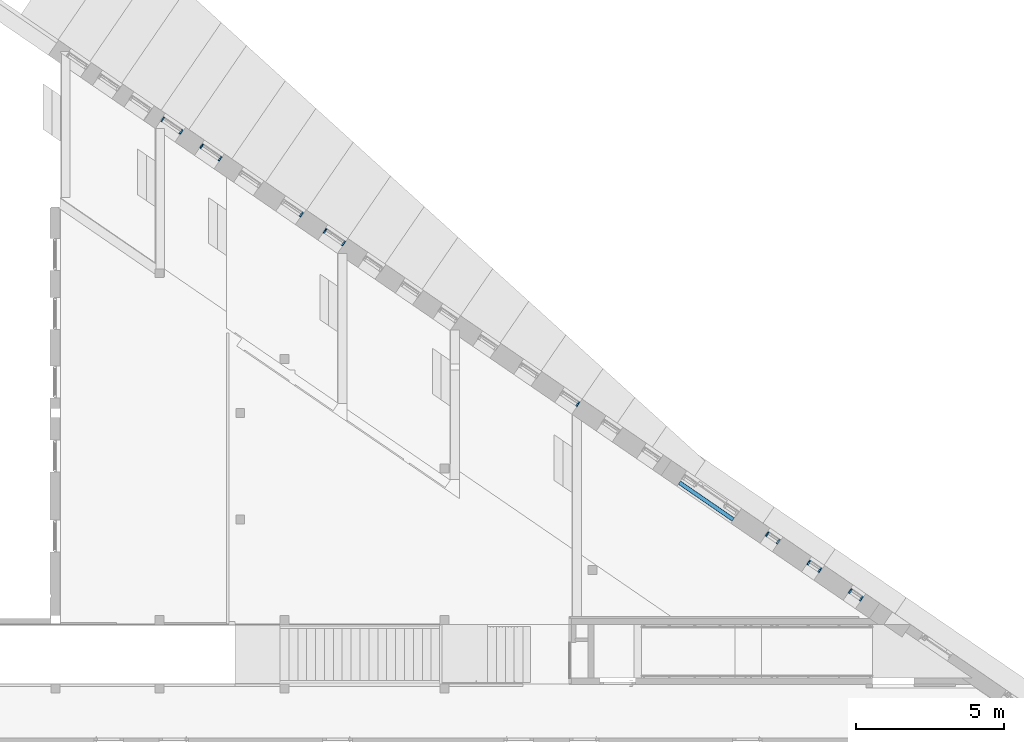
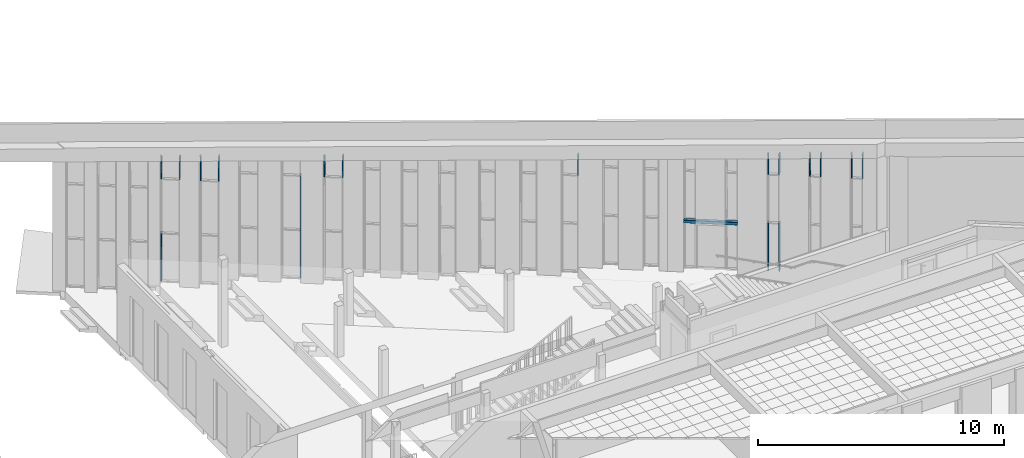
# One storey, part 27 of 79: 18 members, 1 beam, 8 elements without a shape of their own.
"""IFC2X3 building model written with IfcOpenShell, lengths in millimetres."""

from ifc_helpers import new_model, entity, si_unit, converted_unit, derived_unit, money_unit, direction, frame, origin_with_axes, place, context, subcontext, project, spatial, faceted_brep, material, type_object, element, aggregate, save


model = new_model("IFC2X3")

# Units and contexts
model_context = context("Model", 3, precision=0.01, world=origin_with_axes(), true_north=direction((0.0, 1.0)))
body_context = subcontext(model_context, "Body", "Model", "MODEL_VIEW")
ifc_project = project(units=[si_unit("LENGTHUNIT", "METRE", prefix="MILLI"), si_unit("AREAUNIT", "SQUARE_METRE"), si_unit("VOLUMEUNIT", "CUBIC_METRE"), converted_unit("PLANEANGLEUNIT", "DEGREE", entity("IfcPlaneAngleMeasure", 0.0174532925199), si_unit("PLANEANGLEUNIT", "RADIAN"), dimensions=[0, 0, 0, 0, 0, 0, 0]), si_unit("SOLIDANGLEUNIT", "STERADIAN"), money_unit("EUR"), converted_unit("TIMEUNIT", "Year", entity("IfcTimeMeasure", 31556926.0), si_unit("TIMEUNIT", "SECOND"), dimensions=[0, 0, 1, 0, 0, 0, 0]), si_unit("MASSUNIT", "GRAM", prefix="KILO"), si_unit("THERMODYNAMICTEMPERATUREUNIT", "DEGREE_CELSIUS"), si_unit("LUMINOUSINTENSITYUNIT", "LUMEN"), si_unit("ENERGYUNIT", "JOULE", prefix="MEGA"), derived_unit("THERMALCONDUCTANCEUNIT", [(si_unit("POWERUNIT", "WATT"), 1), (si_unit("LENGTHUNIT", "METRE"), -1), (si_unit("THERMODYNAMICTEMPERATUREUNIT", "KELVIN"), -1)]), derived_unit("SPECIFICHEATCAPACITYUNIT", [(si_unit("ENERGYUNIT", "JOULE"), 1), (si_unit("MASSUNIT", "GRAM", prefix="KILO"), -1), (si_unit("THERMODYNAMICTEMPERATUREUNIT", "KELVIN"), -1)]), derived_unit("MASSDENSITYUNIT", [(si_unit("MASSUNIT", "GRAM", prefix="KILO"), 1), (si_unit("VOLUMEUNIT", "CUBIC_METRE"), -1)])], contexts=[model_context])

# Site, building, storey
site_placement = place(None, origin_with_axes())
site = spatial("IfcSite", under=ifc_project, at=site_placement, Name="L.Koidula tn 11b", CompositionType="ELEMENT")
building_placement = place(site_placement, origin_with_axes())
building = spatial("IfcBuilding", under=site, at=building_placement, Name="Rakvere Riigigümnaasium", CompositionType="ELEMENT")
storey_placement = place(building_placement, frame((0.0, 0.0, 3720.0), z_axis=(0.0, 0.0, 1.0), x_axis=(1.0, 0.0, 0.0)))
storey = spatial("IfcBuildingStorey", under=building, at=storey_placement, Name="2.korrus +3,72", CompositionType="ELEMENT", Elevation=3720.0)

# Beam
ifc_material_1 = material(Name="Teras, S355")
beam_type = type_object("IfcBeamType", Name="SHS150x150x6 150 x 150", PredefinedType="BEAM")
beam_placement = place(storey_placement, frame((80889.877763, 20653.4295037, 2915.0), z_axis=(0.0, 0.0, 1.0), x_axis=(0.565619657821, 0.824666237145, 0.0)))
element("IfcBeam", 1, at=beam_placement, inside=storey, type_object=beam_type, material=ifc_material_1, Name="TALA", ObjectType="BEAM", context=body_context, shape_type="Brep", body=[
    faceted_brep([(-64.9726978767, 2199.99519812, 70.0137131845), (65.0273023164, 2199.99519812, 70.0137131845), (68.5628362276, 2199.99519812, 68.5492470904), (70.0273023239, 2199.99519812, 65.0137131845), (70.0273023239, 2199.99519812, -64.9862868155), (68.5628362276, 2199.99519812, -68.5218207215), (65.0273023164, 2199.99519812, -69.9862868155), (-64.9726978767, 2199.99519812, -69.9862868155), (-68.5082317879, 2199.99519812, -68.5218207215), (-69.9726978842, 2199.99519812, -64.9862868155), (-69.9726978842, 2199.99519812, 65.0137131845), (-68.5082317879, 2199.99519812, 68.5492470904), (-69.0, 2199.99519812, -63.0), (-67.2426406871, 2199.99519812, -67.2426406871), (-63.0, 2199.99519812, -69.0), (63.0, 2199.99519812, -69.0), (67.2426406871, 2199.99519812, -67.2426406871), (69.0, 2199.99519812, -63.0), (69.0, 2199.99519812, 63.0), (67.2426406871, 2199.99519812, 67.2426406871), (63.0, 2199.99519812, 69.0), (-63.0, 2199.99519812, 69.0), (-67.2426406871, 2199.99519812, 67.2426406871), (-69.0, 2199.99519812, 63.0), (64.9073764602, 0.0453962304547, 70.0137131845), (-65.0926233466, 0.0524829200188, 70.0137131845), (68.4429103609, 0.0452034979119, 68.5492470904), (69.9073764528, 0.0451236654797, 65.0137131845), (69.9073764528, 0.0451236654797, -64.9862868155), (68.4429103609, 0.0452034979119, -68.5218207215), (64.9073764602, 0.0453962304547, -69.9862868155), (-65.0926233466, 0.0524829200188, -69.9862868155), (-68.6281572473, 0.0526756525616, -68.5218207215), (-70.0926233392, 0.052755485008, -64.9862868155), (-70.0926233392, 0.052755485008, 65.0137131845), (-68.6281572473, 0.0526756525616, 68.5492470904), (-69.0, 0.0, -63.0), (-67.2426406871, 0.0, -67.2426406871), (-63.0, 0.0, -69.0), (63.0, 0.0, -69.0), (67.2426406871, 0.0, -67.2426406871), (69.0, 0.0, -63.0), (69.0, 0.0, 63.0), (67.2426406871, 0.0, 67.2426406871), (63.0, 0.0, 69.0), (-63.0, 0.0, 69.0), (-67.2426406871, 0.0, 67.2426406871), (-69.0, 0.0, 63.0), (63.0, 0.0455002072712, 75.0), (71.4852813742, 0.0450376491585, 71.4852813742), (74.9073764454, 0.0448511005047, 63.2236130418), (74.9073764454, 0.0448511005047, -63.2236130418), (71.4852813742, 0.0450376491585, -71.4852813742), (63.0331065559, 0.0454984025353, -74.9862868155), (-63.0331065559, 0.0523706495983, -74.9862868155), (-71.4852813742, 0.0528314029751, -71.4852813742), (-75.0, 0.0530230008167, -63.0), (-75.0, 0.0530230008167, 63.0), (-71.4852813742, 0.0528314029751, 71.4852813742), (-63.0, 0.0523688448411, 75.0), (-75.0, 0.0, -63.0), (-71.4852813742, 0.0, -71.4852813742), (-63.0, 0.0, -75.0), (63.0, 0.0, -75.0), (71.4852813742, 0.0, -71.4852813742), (75.0, 0.0, -63.0), (75.0, 0.0, 63.0), (71.4852813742, 0.0, 71.4852813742), (63.0, 0.0, 75.0), (-63.0, 0.0, 75.0), (-71.4852813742, 0.0, 71.4852813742), (-75.0, 0.0, 63.0), (75.0, 1699.15442684, 63.0), (75.0, 1699.15442683, -63.0), (63.0331065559, 2199.99519812, -74.9862868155), (63.0, 2199.99519812, -75.0), (-63.0331065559, 2199.99519812, -74.9862868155), (-63.0, 2199.99519812, -75.0)], [[[0, 1, 2, 3, 4, 5, 6, 7, 8, 9, 10, 11], [12, 13, 14, 15, 16, 17, 18, 19, 20, 21, 22, 23]], [[24, 1, 0, 25]], [[26, 2, 1, 24]], [[27, 3, 2, 26]], [[28, 4, 3, 27]], [[29, 5, 4, 28]], [[30, 6, 5, 29]], [[31, 7, 6, 30]], [[32, 8, 7, 31]], [[33, 9, 8, 32]], [[34, 10, 9, 33]], [[35, 11, 10, 34]], [[25, 0, 11, 35]], [[36, 37, 13, 12]], [[37, 38, 14, 13]], [[38, 39, 15, 14]], [[39, 40, 16, 15]], [[40, 41, 17, 16]], [[41, 42, 18, 17]], [[42, 43, 19, 18]], [[43, 44, 20, 19]], [[44, 45, 21, 20]], [[45, 46, 22, 21]], [[46, 47, 23, 22]], [[47, 36, 12, 23]], [[48, 49, 50, 51, 52, 53, 54, 55, 56, 57, 58, 59], [24, 25, 35, 34, 33, 32, 31, 30, 29, 28, 27, 26]], [[60, 61, 62, 63, 64, 65, 66, 67, 68, 69, 70, 71], [40, 39, 38, 37, 36, 47, 46, 45, 44, 43, 42, 41]], [[67, 49, 48, 68]], [[72, 50, 49, 67, 66]], [[51, 50, 72, 73]], [[52, 51, 73, 65, 64]], [[74, 53, 52, 64, 63, 75]], [[54, 53, 74, 76]], [[55, 54, 76, 77, 62, 61]], [[60, 56, 55, 61]], [[71, 57, 56, 60]], [[70, 58, 57, 71]], [[69, 59, 58, 70]], [[68, 48, 59, 69]], [[63, 62, 77, 75]], [[65, 73, 72, 66]], [[77, 76, 74, 75]]]),
    faceted_brep([(-75.0, 2199.99519812, -63.0), (-75.0, 1699.15851523, -63.0), (-75.0, 1699.15851517, 63.0), (-75.0, 2199.99519812, 63.0), (-74.9726978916, 2199.99519812, -63.0659131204), (-74.9726978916, 2199.99519812, 63.0659131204)], [[[0, 1, 2, 3]], [[0, 4, 1]], [[4, 5, 2, 1]], [[3, 2, 5]], [[3, 5, 4, 0]]]),
])

# Curtain wall, members
curtain_wall_type = type_object("IfcCurtainWallType", Name="Curtain Wall Type", PredefinedType="NOTDEFINED")
curtain_wall_1_placement = place(storey_placement, frame((61972.2494244, 33972.9766299, -1395.00007094), z_axis=(0.0, 0.0, 1.0), x_axis=(1.0, 0.0, 0.0)))
curtain_wall_1 = element("IfcCurtainWall", 2, at=curtain_wall_1_placement, inside=storey, type_object=curtain_wall_type, Name="KLF-06-18")
ifc_material_2 = material(Name="Alumiiniumprofiil (RAL 7021)")
member_type = type_object("IfcMemberType", Name="Boundary Frame 50 x 170", PredefinedType="MULLION")
member_1_placement = place(curtain_wall_1_placement, frame((-329.768893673, 226.180920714, 2400.00015279), z_axis=(2.74304762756e-05, -1.88139345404e-05, -0.999999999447), x_axis=(0.824666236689, -0.565619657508, 3.32625188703e-05)))
member_1 = element("IfcMember", 3, at=member_1_placement, type_object=member_type, material=ifc_material_2, Name="KLF-06-26-Profiilid", ObjectType="MULLION", context=body_context, shape_type="Brep", body=[
    faceted_brep([(37.0, 26.0, 2363.00138482), (50.0, 26.0, 2350.00181722), (50.0, 124.0, 2350.00181722), (0.0, 124.0, 2400.00015412), (0.0, -46.0, 2400.00015412), (50.0, -46.0, 2350.00181722), (50.0, -26.0, 2350.00181722), (37.0, -26.0, 2363.00138482), (37.0, 26.0, -5.21684206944e-05), (50.0, 26.0, -5.21684189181e-05), (50.0, 124.0, -5.21684198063e-05), (0.0, 124.0, -5.21684189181e-05), (0.0, -46.0, -5.21684198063e-05), (50.0, -46.0, -5.21684189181e-05), (50.0, -26.0, -5.21684189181e-05), (37.0, -26.0, -5.21684206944e-05)], [[[0, 1, 2, 3, 4, 5, 6, 7]], [[0, 8, 9, 1]], [[9, 10, 2, 1]], [[10, 11, 3, 2]], [[11, 12, 4, 3]], [[12, 13, 5, 4]], [[6, 5, 13, 14]], [[14, 15, 7, 6]], [[7, 15, 8, 0]], [[8, 15, 14, 13, 12, 11, 10, 9]]]),
])
member_2_placement = place(curtain_wall_1_placement, frame((-329.872762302, 226.252161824, 6188.44037357), z_axis=(2.31156630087e-05, -1.58545030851e-05, -0.999999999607), x_axis=(0.824666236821, -0.565619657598, 2.80303254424e-05)))
member_2 = element("IfcMember", 4, at=member_2_placement, type_object=member_type, material=ifc_material_2, Name="KLF-06-32-Profiilid", ObjectType="MULLION", context=body_context, shape_type="Brep", body=[
    faceted_brep([(37.0, 26.0, 1088.44040418), (50.0, 26.0, 1088.44040418), (50.0, 124.0, 1088.44040418), (0.0, 124.0, 1088.44040418), (0.0, -46.0, 1088.44040418), (50.0, -46.0, 1088.44040418), (50.0, -26.0, 1088.44040418), (37.0, -26.0, 1088.44040418), (37.0, 26.0, 34.9701853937), (50.0, 26.0, 47.2570072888), (50.0, 124.0, 47.2570072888), (0.0, 124.0, 0.0), (0.0, -46.0, 0.0), (50.0, -46.0, 47.2570072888), (50.0, -26.0, 47.2570072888), (37.0, -26.0, 34.9701853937)], [[[0, 1, 2, 3, 4, 5, 6, 7]], [[0, 8, 9, 1]], [[9, 10, 2, 1]], [[2, 10, 11, 3]], [[3, 11, 12, 4]], [[4, 12, 13, 5]], [[6, 5, 13, 14]], [[14, 15, 7, 6]], [[7, 15, 8, 0]], [[8, 15, 14, 13, 12, 11, 10, 9]]]),
])
member_3_placement = place(curtain_wall_1_placement, frame((329.860176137, -226.243529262, 5100.00015279), z_axis=(1.08619822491e-08, -7.44998985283e-09, 1.0), x_axis=(-0.824666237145, 0.565619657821, 1.31713707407e-08)))
member_3 = element("IfcMember", 5, at=member_3_placement, type_object=member_type, material=ifc_material_2, Name="KLF-06-30-Profiilid", ObjectType="MULLION", context=body_context, shape_type="Brep", body=[
    faceted_brep([(37.0000144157, 26.0, 1094.47558108), (50.0000142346, 26.0, 1080.72062065), (50.0000142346, 124.0, 1080.72062065), (1.49313805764e-05, 124.0, 1133.62431464), (1.49313805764e-05, -46.0, 1133.62431464), (50.0000142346, -46.0, 1080.72062065), (50.0000142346, -26.0, 1080.72062065), (37.0000144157, -26.0, 1094.47558108), (37.0, 26.0, -1.40410882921e-06), (50.0, 26.0, -1.57533630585e-06), (50.0, 124.0, -1.57533630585e-06), (0.0, 124.0, -9.16767106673e-07), (0.0, -46.0, -9.16767994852e-07), (50.0, -46.0, -1.57533719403e-06), (50.0, -26.0, -1.57533630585e-06), (37.0, -26.0, -1.40410882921e-06)], [[[0, 1, 2, 3, 4, 5, 6, 7]], [[0, 8, 9, 1]], [[9, 10, 2, 1]], [[10, 11, 3, 2]], [[11, 12, 4, 3]], [[12, 13, 5, 4]], [[6, 5, 13, 14]], [[14, 15, 7, 6]], [[7, 15, 8, 0]], [[8, 15, 14, 13, 12, 11, 10, 9]]]),
])
aggregate(curtain_wall_1, [member_1, member_2, member_3])

curtain_wall_2_placement = place(storey_placement, frame((63291.7064528, 33067.985779, -1395.00012232), z_axis=(0.0, 0.0, 1.0), x_axis=(1.0, 0.0, 0.0)))
curtain_wall_2 = element("IfcCurtainWall", 6, at=curtain_wall_2_placement, inside=storey, type_object=curtain_wall_type, Name="KLF-06-17")
member_4_placement = place(curtain_wall_2_placement, frame((-329.866487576, 226.247858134, 6283.53890701), z_axis=(2.82236716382e-08, -1.93579732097e-08, -1.0), x_axis=(0.824666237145, -0.565619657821, 3.42243592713e-08)))
member_4 = element("IfcMember", 7, at=member_4_placement, type_object=member_type, material=ifc_material_2, Name="KLF-06-39-Profiilid", ObjectType="MULLION", context=body_context, shape_type="Brep", body=[
    faceted_brep([(36.9999594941, 26.0, 1183.53870495), (49.9999594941, 26.0, 1183.5387054), (49.9999594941, 124.0, 1183.5387054), (-4.05058528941e-05, 124.0, 1183.53870369), (-4.05058457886e-05, -46.0, 1183.53870369), (49.9999594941, -46.0, 1183.5387054), (49.9999594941, -26.0, 1183.5387054), (36.9999594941, -26.0, 1183.53870495), (36.9999988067, 26.0, 34.8661522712), (49.9999983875, 26.0, 47.1164219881), (49.9999983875, 124.0, 47.1164219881), (0.0, 124.0, 0.0), (0.0, -46.0, 0.0), (49.9999983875, -46.0, 47.1164219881), (49.9999983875, -26.0, 47.1164219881), (36.9999988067, -26.0, 34.8661522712)], [[[0, 1, 2, 3, 4, 5, 6, 7]], [[0, 8, 9, 1]], [[9, 10, 2, 1]], [[2, 10, 11, 3]], [[3, 11, 12, 4]], [[4, 12, 13, 5]], [[6, 5, 13, 14]], [[14, 15, 7, 6]], [[7, 15, 8, 0]], [[8, 15, 14, 13, 12, 11, 10, 9]]]),
])
member_5_placement = place(curtain_wall_2_placement, frame((329.866474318, -226.24784904, 5100.00020418), z_axis=(-5.59538744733e-09, 3.83774787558e-09, 1.0), x_axis=(-0.824666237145, 0.565619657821, -6.78503275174e-09)))
member_5 = element("IfcMember", 8, at=member_5_placement, type_object=member_type, material=ifc_material_2, Name="KLF-06-37-Profiilid", ObjectType="MULLION", context=body_context, shape_type="Brep", body=[
    faceted_brep([(36.9999919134, 26.0, 1191.82338698), (49.999992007, 26.0, 1178.02777157), (49.999992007, 124.0, 1178.02777157), (-8.35296987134e-06, 124.0, 1231.08783084), (-8.35297697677e-06, -46.0, 1231.08783084), (49.999992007, -46.0, 1178.02777157), (49.999992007, -26.0, 1178.02777157), (36.9999919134, -26.0, 1191.82338698), (37.0, 26.0, -9.6141672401e-07), (50.0, 26.0, -8.7321172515e-07), (50.0, 124.0, -8.7321172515e-07), (0.0, 124.0, -1.21246301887e-06), (0.0, -46.0, -1.21246301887e-06), (50.0, -46.0, -8.7321172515e-07), (50.0, -26.0, -8.7321172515e-07), (37.0, -26.0, -9.6141672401e-07)], [[[0, 1, 2, 3, 4, 5, 6, 7]], [[0, 8, 9, 1]], [[9, 10, 2, 1]], [[10, 11, 3, 2]], [[11, 12, 4, 3]], [[12, 13, 5, 4]], [[6, 5, 13, 14]], [[14, 15, 7, 6]], [[7, 15, 8, 0]], [[8, 15, 14, 13, 12, 11, 10, 9]]]),
])
aggregate(curtain_wall_2, [member_4, member_5])

curtain_wall_3_placement = place(storey_placement, frame((66033.4417184, 31187.4994723, -930.00009489), z_axis=(0.0, 0.0, 1.0), x_axis=(1.0, 0.0, 0.0)))
curtain_wall_3 = element("IfcCurtainWall", 9, at=curtain_wall_3_placement, inside=storey, type_object=curtain_wall_type, Name="KLF-06-15")
member_6_placement = place(curtain_wall_3_placement, frame((329.795106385, -226.198899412, 2400.00018486), z_axis=(-0.000156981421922, 0.00010766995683, 0.999999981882), x_axis=(-0.824666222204, 0.565619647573, -0.000190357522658)))
member_6 = element("IfcMember", 10, at=member_6_placement, type_object=member_type, material=ifc_material_2, Name="KLF-06-33-Profiilid", ObjectType="MULLION", context=body_context, shape_type="Brep", body=[
    faceted_brep([(37.0, 26.0, 2700.00032986), (50.0, 26.0, 2700.00032986), (50.0, 124.0, 2700.00032986), (0.0, 124.0, 2700.00032986), (0.0, -46.0, 2700.00032986), (50.0, -46.0, 2700.00032986), (50.0, -26.0, 2700.00032986), (37.0, -26.0, 2700.00032986), (37.0, 26.0, -0.000281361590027), (50.0, 26.0, -0.000281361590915), (50.0, 124.0, -0.000281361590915), (0.0, 124.0, -0.000281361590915), (0.0, -46.0, -0.000281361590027), (50.0, -46.0, -0.000281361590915), (50.0, -26.0, -0.000281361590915), (37.0, -26.0, -0.000281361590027)], [[[0, 1, 2, 3, 4, 5, 6, 7]], [[0, 8, 9, 1]], [[9, 10, 2, 1]], [[10, 11, 3, 2]], [[11, 12, 4, 3]], [[12, 13, 5, 4]], [[6, 5, 13, 14]], [[14, 15, 7, 6]], [[7, 15, 8, 0]], [[8, 15, 14, 13, 12, 11, 10, 9]]]),
])
member_7_placement = place(curtain_wall_3_placement, frame((330.149587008, -226.442029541, 0.0), z_axis=(-0.000147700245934, 0.000101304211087, 0.999999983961), x_axis=(-0.824666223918, 0.565619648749, -0.00017910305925)))
member_7 = element("IfcMember", 11, at=member_7_placement, type_object=member_type, material=ifc_material_2, Name="KLF-06-32-Profiilid", ObjectType="MULLION", context=body_context, shape_type="Brep", body=[
    faceted_brep([(37.0, 26.0, 2400.00050471), (50.0, 26.0, 2400.00050471), (50.0, 124.0, 2400.00050471), (0.0, 124.0, 2400.00050471), (0.0, -46.0, 2400.00050471), (50.0, -46.0, 2400.00050471), (50.0, -26.0, 2400.00050471), (37.0, -26.0, 2400.00050471), (37.0, 26.0, 37.0066274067), (50.0, 26.0, 50.0089559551), (50.0, 124.0, 50.0089559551), (0.0, 124.0, 0.0), (0.0, -46.0, 0.0), (50.0, -46.0, 50.0089559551), (50.0, -26.0, 50.0089559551), (37.0, -26.0, 37.0066274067)], [[[0, 1, 2, 3, 4, 5, 6, 7]], [[0, 8, 9, 1]], [[9, 10, 2, 1]], [[2, 10, 11, 3]], [[3, 11, 12, 4]], [[4, 12, 13, 5]], [[6, 5, 13, 14]], [[14, 15, 7, 6]], [[7, 15, 8, 0]], [[8, 15, 14, 13, 12, 11, 10, 9]]]),
])
aggregate(curtain_wall_3, [member_6, member_7])

curtain_wall_4_placement = place(storey_placement, frame((67456.273164, 30211.6096842, -929.999974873), z_axis=(0.0, 0.0, 1.0), x_axis=(1.0, 0.0, 0.0)))
curtain_wall_4 = element("IfcCurtainWall", 12, at=curtain_wall_4_placement, inside=storey, type_object=curtain_wall_type, Name="KLF-06-14")
member_8_placement = place(curtain_wall_4_placement, frame((329.866459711, -226.247839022, 5100.00006484), z_axis=(1.34766396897e-08, -9.24332023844e-09, 1.0), x_axis=(-0.824666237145, 0.565619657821, 1.63419333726e-08)))
member_8 = element("IfcMember", 13, at=member_8_placement, type_object=member_type, material=ifc_material_2, Name="KLF-06-43-Profiilid", ObjectType="MULLION", context=body_context, shape_type="Brep", body=[
    faceted_brep([(37.0000167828, 26.0, 1026.97779585), (50.0000165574, 26.0, 1013.18217777), (50.0000165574, 124.0, 1013.18217777), (1.74244618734e-05, 124.0, 1066.24224729), (1.74244618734e-05, -46.0, 1066.24224729), (50.0000165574, -46.0, 1013.18217777), (50.0000165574, -26.0, 1013.18217777), (37.0000167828, -26.0, 1026.97779585), (37.0, 26.0, -1.33730448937e-06), (50.0, 26.0, -1.54974966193e-06), (50.0, 124.0, -1.54974966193e-06), (0.0, 124.0, -7.3265304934e-07), (0.0, -46.0, -7.3265304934e-07), (50.0, -46.0, -1.54974966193e-06), (50.0, -26.0, -1.54974966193e-06), (37.0, -26.0, -1.33730537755e-06)], [[[0, 1, 2, 3, 4, 5, 6, 7]], [[0, 8, 9, 1]], [[9, 10, 2, 1]], [[10, 11, 3, 2]], [[11, 12, 4, 3]], [[12, 13, 5, 4]], [[6, 5, 13, 14]], [[14, 15, 7, 6]], [[7, 15, 8, 0]], [[8, 15, 14, 13, 12, 11, 10, 9]]]),
])
member_9_placement = place(curtain_wall_4_placement, frame((-329.866469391, 226.247845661, 6118.69306619), z_axis=(4.90027451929e-09, -3.3609802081e-09, -1.0), x_axis=(0.824666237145, -0.565619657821, 5.94212742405e-09)))
member_9 = element("IfcMember", 14, at=member_9_placement, type_object=member_type, material=ifc_material_2, Name="KLF-06-45-Profiilid", ObjectType="MULLION", context=body_context, shape_type="Brep", body=[
    faceted_brep([(36.9999939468, 26.0, 1018.69300172), (49.9999939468, 26.0, 1018.6930018), (49.9999939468, 124.0, 1018.6930018), (-6.0532059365e-06, 124.0, 1018.6930015), (-6.0532059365e-06, -46.0, 1018.6930015), (49.9999939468, -46.0, 1018.6930018), (49.9999939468, -26.0, 1018.6930018), (36.9999939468, -26.0, 1018.69300172), (36.9999997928, 26.0, 34.86614507), (49.99999972, 26.0, 47.1164122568), (49.99999972, 124.0, 47.1164122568), (0.0, 124.0, 0.0), (0.0, -46.0, 0.0), (49.99999972, -46.0, 47.1164122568), (49.99999972, -26.0, 47.1164122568), (36.9999997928, -26.0, 34.86614507)], [[[0, 1, 2, 3, 4, 5, 6, 7]], [[0, 8, 9, 1]], [[9, 10, 2, 1]], [[2, 10, 11, 3]], [[3, 11, 12, 4]], [[4, 12, 13, 5]], [[6, 5, 13, 14]], [[14, 15, 7, 6]], [[7, 15, 8, 0]], [[8, 15, 14, 13, 12, 11, 10, 9]]]),
])
aggregate(curtain_wall_4, [member_8, member_9])

# Curtain wall, member
curtain_wall_5_placement = place(storey_placement, frame((75401.9316286, 24761.8632578, 0.0), z_axis=(0.0, 0.0, 1.0), x_axis=(1.0, 0.0, 0.0)))
curtain_wall_5 = element("IfcCurtainWall", 15, at=curtain_wall_5_placement, inside=storey, type_object=curtain_wall_type, Name="KLF-06-08")
member_10_placement = place(curtain_wall_5_placement, frame((288.633182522, -197.966879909, 4800.00006484), z_axis=(-9.36961109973e-08, 6.42640149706e-08, 1.0), x_axis=(-0.824666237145, 0.565619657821, -1.13617009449e-07)))
member_10 = element("IfcMember", 16, at=member_10_placement, type_object=member_type, material=ifc_material_2, Name="KLF-06-19-Profiilid", ObjectType="MULLION", context=body_context, shape_type="Brep", body=[
    faceted_brep([(36.9998901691, 26.0, 966.676659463), (49.9998917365, 26.0, 952.881044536), (49.9998917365, 124.0, 952.881044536), (-0.000114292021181, 124.0, 1005.94110195), (-0.000114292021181, -46.0, 1005.94110195), (49.9998917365, -46.0, 952.881044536), (49.9998917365, -26.0, 952.881044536), (36.9998901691, -26.0, 966.676659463), (37.0, 26.0, 3.94965837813e-07), (50.0, 26.0, 1.87198700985e-06), (50.0, 124.0, 1.87198700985e-06), (0.0, 124.0, -3.80886255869e-06), (0.0, -46.0, -3.80886255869e-06), (50.0, -46.0, 1.87198700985e-06), (50.0, -26.0, 1.87198700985e-06), (37.0, -26.0, 3.94965837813e-07)], [[[0, 1, 2, 3, 4, 5, 6, 7]], [[0, 8, 9, 1]], [[9, 10, 2, 1]], [[10, 11, 3, 2]], [[11, 12, 4, 3]], [[12, 13, 5, 4]], [[6, 5, 13, 14]], [[14, 15, 7, 6]], [[7, 15, 8, 0]], [[8, 15, 14, 13, 12, 11, 10, 9]]]),
])
aggregate(curtain_wall_5, [member_10])

# Curtain wall, members
curtain_wall_6_placement = place(storey_placement, frame((82246.2623366, 20067.4976964, 464.999982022), z_axis=(0.0, 0.0, 1.0), x_axis=(1.0, 0.0, 0.0)))
curtain_wall_6 = element("IfcCurtainWall", 17, at=curtain_wall_6_placement, inside=storey, type_object=curtain_wall_type, Name="KLF-06-03")
member_11_placement = place(curtain_wall_6_placement, frame((206.170617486, -141.407697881, 4800.00008282), z_axis=(1.26490069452e-05, -8.67566374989e-06, 0.999999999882), x_axis=(-0.824666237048, 0.565619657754, 1.53383349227e-05)))
member_11 = element("IfcMember", 18, at=member_11_placement, type_object=member_type, material=ifc_material_2, Name="KLF-06-14-Profiilid", ObjectType="MULLION", context=body_context, shape_type="Brep", body=[
    faceted_brep([(37.0, 26.0, 989.027681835), (50.0, 26.0, 975.231854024), (50.0, 124.0, 975.231854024), (0.0, 124.0, 1028.29273022), (0.0, -46.0, 1028.29273022), (50.0, -46.0, 975.231854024), (50.0, -26.0, 975.231854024), (37.0, -26.0, 989.027681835), (37.0, 26.0, -2.16019913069e-06), (50.0, 26.0, -2.16019913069e-06), (50.0, 124.0, -2.16019913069e-06), (0.0, 124.0, -2.16019913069e-06), (0.0, -46.0, -2.16019913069e-06), (50.0, -46.0, -2.16019913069e-06), (50.0, -26.0, -2.16019913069e-06), (37.0, -26.0, -2.16019913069e-06)], [[[0, 1, 2, 3, 4, 5, 6, 7]], [[0, 8, 9, 1]], [[9, 10, 2, 1]], [[10, 11, 3, 2]], [[11, 12, 4, 3]], [[12, 13, 5, 4]], [[6, 5, 13, 14]], [[14, 15, 7, 6]], [[7, 15, 8, 0]], [[8, 15, 14, 13, 12, 11, 10, 9]]]),
])
member_12_placement = place(curtain_wall_6_placement, frame((206.109629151, -141.365867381, 0.0), z_axis=(1.26915411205e-05, -8.70483696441e-06, 0.999999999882), x_axis=(-0.824666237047, 0.565619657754, 1.53899123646e-05)))
member_12 = element("IfcMember", 19, at=member_12_placement, type_object=member_type, material=ifc_material_2, Name="KLF-06-12-Profiilid", ObjectType="MULLION", context=body_context, shape_type="Brep", body=[
    faceted_brep([(37.0, 26.0, 2400.00008397), (50.0, 26.0, 2400.00008397), (50.0, 124.0, 2400.00008397), (0.0, 124.0, 2400.00008397), (0.0, -46.0, 2400.00008397), (50.0, -46.0, 2400.00008397), (50.0, -26.0, 2400.00008397), (37.0, -26.0, 2400.00008397), (37.0, 26.0, 36.9994305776), (50.0, 26.0, 49.9992305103), (50.0, 124.0, 49.9992305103), (0.0, 124.0, 0.0), (0.0, -46.0, 0.0), (50.0, -46.0, 49.9992305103), (50.0, -26.0, 49.9992305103), (37.0, -26.0, 36.9994305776)], [[[0, 1, 2, 3, 4, 5, 6, 7]], [[0, 8, 9, 1]], [[9, 10, 2, 1]], [[2, 10, 11, 3]], [[3, 11, 12, 4]], [[4, 12, 13, 5]], [[6, 5, 13, 14]], [[14, 15, 7, 6]], [[7, 15, 8, 0]], [[8, 15, 14, 13, 12, 11, 10, 9]]]),
])
member_13_placement = place(curtain_wall_6_placement, frame((-206.158611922, 141.39946354, 2400.00008282), z_axis=(-2.68579333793e-06, 1.84212405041e-06, -0.999999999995), x_axis=(0.824666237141, -0.565619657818, -3.2568246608e-06)))
member_13 = element("IfcMember", 20, at=member_13_placement, type_object=member_type, material=ifc_material_2, Name="KLF-06-18-Profiilid", ObjectType="MULLION", context=body_context, shape_type="Brep", body=[
    faceted_brep([(37.0076958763, 26.0, 2362.99984181), (50.0076535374, 26.0, 2349.99975713), (50.0076535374, 124.0, 2349.99975713), (0.00781637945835, 124.0, 2400.00008282), (0.00781637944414, -46.0, 2400.00008282), (50.0076535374, -46.0, 2349.99975713), (50.0076535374, -26.0, 2349.99975713), (37.0076958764, -26.0, 2362.99984181), (36.9999999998, 26.0, -0.000121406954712), (49.9999999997, 26.0, -0.000163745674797), (49.9999999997, 124.0, -0.000163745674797), (0.0, 124.0, -9.04441854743e-07), (0.0, -46.0, -9.04441854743e-07), (49.9999999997, -46.0, -0.000163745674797), (49.9999999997, -26.0, -0.000163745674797), (36.9999999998, -26.0, -0.000121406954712)], [[[0, 1, 2, 3, 4, 5, 6, 7]], [[0, 8, 9, 1]], [[9, 10, 2, 1]], [[10, 11, 3, 2]], [[11, 12, 4, 3]], [[12, 13, 5, 4]], [[6, 5, 13, 14]], [[14, 15, 7, 6]], [[7, 15, 8, 0]], [[8, 15, 14, 13, 12, 11, 10, 9]]]),
])
member_14_placement = place(curtain_wall_6_placement, frame((-206.149423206, 141.39316121, 5798.57460276), z_axis=(-2.67502250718e-06, 1.83473658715e-06, -0.999999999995), x_axis=(0.824666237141, -0.565619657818, -3.24376382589e-06)))
member_14 = element("IfcMember", 21, at=member_14_placement, type_object=member_type, material=ifc_material_2, Name="KLF-06-16-Profiilid", ObjectType="MULLION", context=body_context, shape_type="Brep", body=[
    faceted_brep([(37.0032391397, 26.0, 998.574401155), (50.0032391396, 26.0, 998.574358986), (50.0032391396, 124.0, 998.574358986), (0.00323913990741, 124.0, 998.574521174), (0.00323913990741, -46.0, 998.574521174), (50.0032391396, -46.0, 998.574358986), (50.0032391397, -26.0, 998.574358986), (37.0032391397, -26.0, 998.574401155), (37.000113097, 26.0, 34.8659158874), (50.0001528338, 26.0, 47.1161025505), (50.0001528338, 124.0, 47.1161025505), (0.0, 124.0, 0.0), (0.0, -46.0, 0.0), (50.0001528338, -46.0, 47.1161025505), (50.0001528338, -26.0, 47.1161025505), (37.000113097, -26.0, 34.8659158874)], [[[0, 1, 2, 3, 4, 5, 6, 7]], [[0, 8, 9, 1]], [[9, 10, 2, 1]], [[2, 10, 11, 3]], [[3, 11, 12, 4]], [[4, 12, 13, 5]], [[6, 5, 13, 14]], [[14, 15, 7, 6]], [[7, 15, 8, 0]], [[8, 15, 14, 13, 12, 11, 10, 9]]]),
])
aggregate(curtain_wall_6, [member_11, member_12, member_13, member_14])

curtain_wall_7_placement = place(storey_placement, frame((83648.21223, 19105.9329046, 464.999957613), z_axis=(0.0, 0.0, 1.0), x_axis=(1.0, 0.0, 0.0)))
curtain_wall_7 = element("IfcCurtainWall", 22, at=curtain_wall_7_placement, inside=storey, type_object=curtain_wall_type, Name="KLF-06-02")
member_15_placement = place(curtain_wall_7_placement, frame((-206.166491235, 141.40486778, 4800.00010722), z_axis=(0.0, 0.0, 1.0), x_axis=(-0.824666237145, 0.565619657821, 0.0)))
member_15 = element("IfcMember", 23, at=member_15_placement, type_object=member_type, material=ifc_material_2, Name="KLF-06-09-Profiilid", ObjectType="MULLION", context=body_context, shape_type="Brep", body=[
    faceted_brep([(-37.0, 26.0, 1064.75039392), (-37.0, -26.0, 1064.75039392), (-50.0, -26.0, 1052.50012528), (-50.0, -46.0, 1052.50012528), (0.0, -46.0, 1099.61654312), (0.0, 124.0, 1099.61654312), (-50.0, 124.0, 1052.50012528), (-50.0, 26.0, 1052.50012528), (-37.0, 26.0, 0.0), (-37.0, -26.0, 0.0), (-50.0, -26.0, 0.0), (-50.0, -46.0, 0.0), (0.0, -46.0, 0.0), (0.0, 124.0, 0.0), (-50.0, 124.0, 0.0), (-50.0, 26.0, 0.0)], [[[0, 1, 2, 3, 4, 5, 6, 7]], [[1, 0, 8, 9]], [[10, 2, 1, 9]], [[2, 10, 11, 3]], [[12, 4, 3, 11]], [[13, 5, 4, 12]], [[14, 6, 5, 13]], [[15, 7, 6, 14]], [[0, 7, 15, 8]], [[8, 15, 14, 13, 12, 11, 10, 9]]]),
])
member_16_placement = place(curtain_wall_7_placement, frame((206.166557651, -141.404913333, 4800.00010722), z_axis=(0.0, 0.0, 1.0), x_axis=(-0.824666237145, 0.565619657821, 0.0)))
member_16 = element("IfcMember", 24, at=member_16_placement, type_object=member_type, material=ifc_material_2, Name="KLF-06-07-Profiilid", ObjectType="MULLION", context=body_context, shape_type="Brep", body=[
    faceted_brep([(37.0, 26.0, 1090.07030831), (50.0, 26.0, 1076.27469247), (50.0, 124.0, 1076.27469247), (0.0, 124.0, 1129.33475337), (0.0, -46.0, 1129.33475337), (50.0, -46.0, 1076.27469247), (50.0, -26.0, 1076.27469247), (37.0, -26.0, 1090.07030831), (37.0, 26.0, -1.67784541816e-06), (50.0, 26.0, -1.67784541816e-06), (50.0, 124.0, -1.67784541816e-06), (0.0, 124.0, -1.67784541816e-06), (0.0, -46.0, -1.67784541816e-06), (50.0, -46.0, -1.67784541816e-06), (50.0, -26.0, -1.67784541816e-06), (37.0, -26.0, -1.67784541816e-06)], [[[0, 1, 2, 3, 4, 5, 6, 7]], [[0, 8, 9, 1]], [[9, 10, 2, 1]], [[10, 11, 3, 2]], [[11, 12, 4, 3]], [[12, 13, 5, 4]], [[6, 5, 13, 14]], [[14, 15, 7, 6]], [[7, 15, 8, 0]], [[8, 15, 14, 13, 12, 11, 10, 9]]]),
])
aggregate(curtain_wall_7, [member_15, member_16])

curtain_wall_8_placement = place(storey_placement, frame((85050.1449307, 18144.3794194, 464.999921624), z_axis=(0.0, 0.0, 1.0), x_axis=(1.0, 0.0, 0.0)))
curtain_wall_8 = element("IfcCurtainWall", 25, at=curtain_wall_8_placement, inside=storey, type_object=curtain_wall_type, Name="KLF-06-01")
member_17_placement = place(curtain_wall_8_placement, frame((-206.166494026, 141.404869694, 4800.00014321), z_axis=(0.0, 0.0, 1.0), x_axis=(-0.824666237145, 0.565619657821, 0.0)))
member_17 = element("IfcMember", 26, at=member_17_placement, type_object=member_type, material=ifc_material_2, Name="KLF-06-14-Profiilid", ObjectType="MULLION", context=body_context, shape_type="Brep", body=[
    faceted_brep([(-37.0, 26.0, 1165.79242364), (-37.0, -26.0, 1165.79242364), (-50.0, -26.0, 1153.54215796), (-50.0, -46.0, 1153.54215796), (0.0, -46.0, 1200.65856442), (0.0, 124.0, 1200.65856442), (-50.0, 124.0, 1153.54215796), (-50.0, 26.0, 1153.54215796), (-37.0, 26.0, 0.0), (-37.0, -26.0, 0.0), (-50.0, -26.0, 0.0), (-50.0, -46.0, 0.0), (0.0, -46.0, 0.0), (0.0, 124.0, 0.0), (-50.0, 124.0, 0.0), (-50.0, 26.0, 0.0)], [[[0, 1, 2, 3, 4, 5, 6, 7]], [[1, 0, 8, 9]], [[10, 2, 1, 9]], [[2, 10, 11, 3]], [[12, 4, 3, 11]], [[13, 5, 4, 12]], [[14, 6, 5, 13]], [[15, 7, 6, 14]], [[0, 7, 15, 8]], [[8, 15, 14, 13, 12, 11, 10, 9]]]),
])
member_18_placement = place(curtain_wall_8_placement, frame((206.166523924, -141.404890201, 4800.00014321), z_axis=(-4.85999339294e-08, 3.33335781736e-08, 1.0), x_axis=(-0.824666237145, 0.565619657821, -5.89328517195e-08)))
member_18 = element("IfcMember", 27, at=member_18_placement, type_object=member_type, material=ifc_material_2, Name="KLF-06-12-Profiilid", ObjectType="MULLION", context=body_context, shape_type="Brep", body=[
    faceted_brep([(36.9999298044, 26.0, 1191.11243906), (49.9999306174, 26.0, 1177.31682147), (49.9999306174, 124.0, 1177.31682147), (-7.25096143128e-05, 124.0, 1230.3768891), (-7.25096214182e-05, -46.0, 1230.3768891), (49.9999306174, -46.0, 1177.31682147), (49.9999306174, -26.0, 1177.31682147), (36.9999298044, -26.0, 1191.11243906), (37.0, 26.0, -1.0337544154e-06), (50.0, 26.0, -2.67627697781e-07), (50.0, 124.0, -2.67627697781e-07), (0.0, 124.0, -3.21426973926e-06), (0.0, -46.0, -3.21426973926e-06), (50.0, -46.0, -2.67627697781e-07), (50.0, -26.0, -2.67627697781e-07), (37.0, -26.0, -1.0337544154e-06)], [[[0, 1, 2, 3, 4, 5, 6, 7]], [[0, 8, 9, 1]], [[9, 10, 2, 1]], [[10, 11, 3, 2]], [[11, 12, 4, 3]], [[12, 13, 5, 4]], [[6, 5, 13, 14]], [[14, 15, 7, 6]], [[7, 15, 8, 0]], [[8, 15, 14, 13, 12, 11, 10, 9]]]),
])
aggregate(curtain_wall_8, [member_17, member_18])

save(model, "model.ifc")
